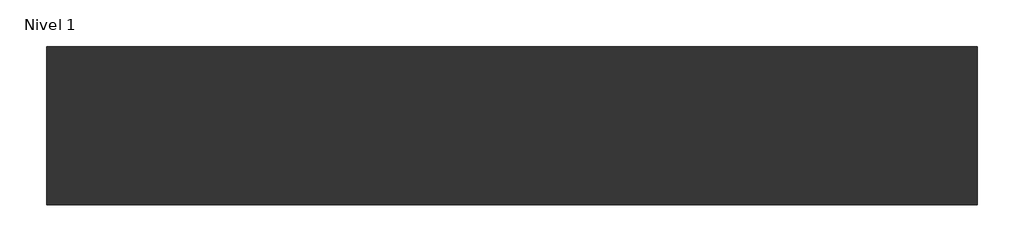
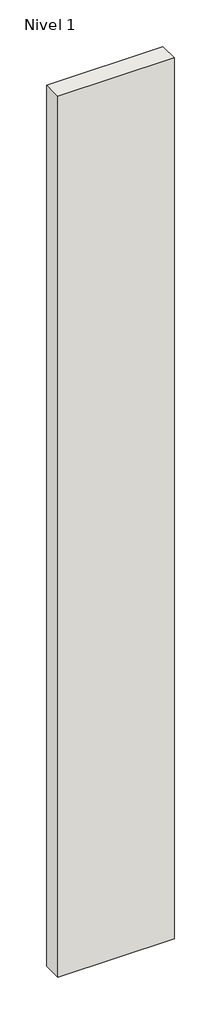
# One storey: 1 wall.
"""IFC4 building model written with IfcOpenShell, lengths in millimetres."""

from ifc_helpers import new_model, si_unit, origin, origin_with_axes, place, context, project, spatial, polyline, outline, extrude, element, save

model = new_model("IFC4")

# Units and contexts
model_context = context("Model", 3, world=origin())
ifc_project = project(units=[si_unit("LENGTHUNIT", "METRE", prefix="MILLI")], contexts=[model_context])

# Site, building, storey
site = spatial("IfcSite", under=ifc_project)
building = spatial("IfcBuilding", under=site)
storey = spatial("IfcBuildingStorey", under=building, Name="Nivel 1", Elevation=0.0)

# Wall
placement = place(None, origin())
element("IfcWall", 1, ObjectType="Fachada de hormigón con cámara. Aislamiento por el interior", at=placement, inside=storey, context=model_context, shape_type="SweptSolid", body=[
    extrude(outline(polyline([(-3167.1347582, 3571.9505819), (-4167.1347582, 3571.9505819), (-4167.1347582, 3741.9505819), (-3167.1347582, 3741.9505819), (-3167.1347582, 3571.9505819)])), origin_with_axes(), (0.0, 0.0, 1.0), 8000.0),
])

save(model, "model.ifc")
